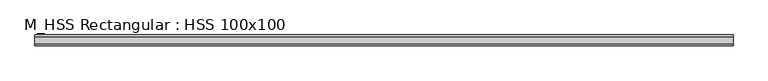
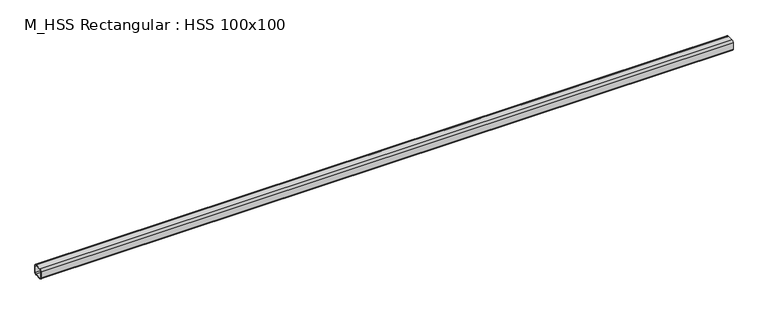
"""IFC4 building model written with IfcOpenShell, lengths in millimetres: beam geometry, M_HSS Rectangular : HSS 100x100."""

from ifc_helpers import new_model, si_unit, point, frame, frame_2d, origin, place, context, project, spatial, polyline, circle_curve, trimmed, segment, composite_curve, outline, extrude, source, transform, mapped, element, save


def m_hss_rectangular_hss_100x100_05ed1bb5(model_context):
    return source(origin(), model_context, "Body", "SweptSolid", [
        extrude(outline(composite_curve([segment(polyline([(50.0, 30.94), (50.0, -30.94)]), True, "CONTINUOUS"), segment(trimmed(circle_curve(frame_2d((30.94, -30.94)), 19.06), [point((50.0, -30.94))], [point((30.94, -50.0))], False, "CARTESIAN"), True, "CONTINUOUS"), segment(polyline([(30.94, -50.0), (-30.94, -50.0)]), True, "CONTINUOUS"), segment(trimmed(circle_curve(frame_2d((-30.94, -30.94)), 19.06), [point((-30.94, -50.0))], [point((-50.0, -30.94))], False, "CARTESIAN"), True, "CONTINUOUS"), segment(polyline([(-50.0, -30.94), (-50.0, 30.94)]), True, "CONTINUOUS"), segment(trimmed(circle_curve(frame_2d((-30.94, 30.94)), 19.06), [point((-50.0, 30.94))], [point((-30.94, 50.0))], False, "CARTESIAN"), True, "CONTINUOUS"), segment(polyline([(-30.94, 50.0), (30.94, 50.0)]), True, "CONTINUOUS"), segment(trimmed(circle_curve(frame_2d((30.94, 30.94)), 19.06), [point((30.94, 50.0))], [point((50.0, 30.94))], False, "CARTESIAN"), True, "CONTINUOUS")], self_intersect=False), holes=[composite_curve([segment(trimmed(circle_curve(frame_2d((-30.94, 30.94)), 9.53), [point((-30.94, 40.47))], [point((-40.47, 30.94))], True, "CARTESIAN"), True, "CONTINUOUS"), segment(polyline([(-40.47, 30.94), (-40.47, -30.94)]), True, "CONTINUOUS"), segment(trimmed(circle_curve(frame_2d((-30.94, -30.94)), 9.53), [point((-40.47, -30.94))], [point((-30.94, -40.47))], True, "CARTESIAN"), True, "CONTINUOUS"), segment(polyline([(-30.94, -40.47), (30.94, -40.47)]), True, "CONTINUOUS"), segment(trimmed(circle_curve(frame_2d((30.94, -30.94)), 9.53), [point((30.94, -40.47))], [point((40.47, -30.94))], True, "CARTESIAN"), True, "CONTINUOUS"), segment(polyline([(40.47, -30.94), (40.47, 30.94)]), True, "CONTINUOUS"), segment(trimmed(circle_curve(frame_2d((30.94, 30.94)), 9.53), [point((40.47, 30.94))], [point((30.94, 40.47))], True, "CARTESIAN"), True, "CONTINUOUS"), segment(polyline([(30.94, 40.47), (-30.94, 40.47)]), True, "CONTINUOUS")], self_intersect=False)]), frame((-3233.4, 0.0, 0.0), z_axis=(1.0, 0.0, 0.0), x_axis=(0.0, 1.0, 0.0)), (0.0, 0.0, 1.0), 6466.8),
    ])


if __name__ == "__main__":
    model = new_model("IFC4")
    model_context = context("Model", 3, world=origin())
    ifc_project = project(units=[si_unit("LENGTHUNIT", "METRE", prefix="MILLI")], contexts=[model_context])
    site = spatial("IfcSite", under=ifc_project)
    building = spatial("IfcBuilding", under=site)
    placement = place(None, origin())
    m_hss_rectangular_hss_100x100_shape = m_hss_rectangular_hss_100x100_05ed1bb5(model_context)
    element("IfcBeam", 1, ObjectType="M_HSS Rectangular : HSS 100x100", at=placement, inside=building, context=model_context, shape_type="MappedRepresentation", body=[
        mapped(m_hss_rectangular_hss_100x100_shape, transform((0.0, 0.0, 0.0), x_axis=(1.0, 0.0, 0.0), y_axis=(0.0, 1.0, 0.0), z_axis=(0.0, 0.0, 1.0))),
    ])
    save(model, "model.ifc")
